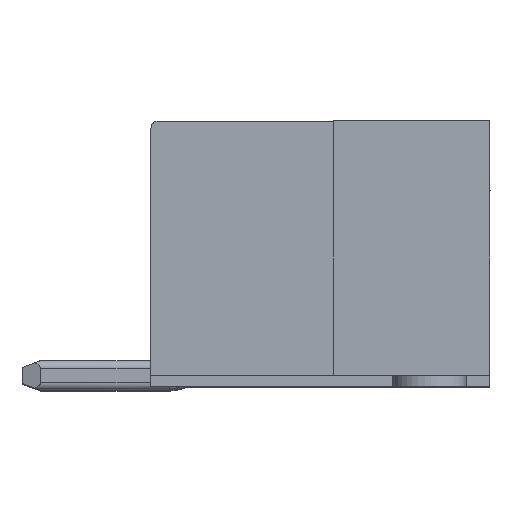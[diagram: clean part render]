
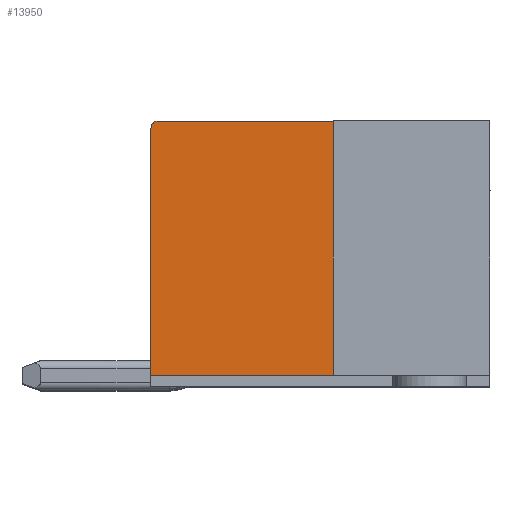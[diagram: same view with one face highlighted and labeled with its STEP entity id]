
A CAD part, top view. The second image highlights one B-rep face of the part: STEP entity #13950.
In plain terms, the highlighted planar face has unit normal (0, 0, 1).
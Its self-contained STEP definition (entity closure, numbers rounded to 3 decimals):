
#81 = ORIENTED_EDGE ( 'NONE', *, *, #4742, .T. ) ;
#147 = EDGE_CURVE ( 'NONE', #14270, #1903, #10104, .T. ) ;
#685 = CARTESIAN_POINT ( 'NONE',  ( -9.2, 7., -3.7 ) ) ;
#1343 = VECTOR ( 'NONE', #20328, 1000. ) ;
#1375 = FACE_OUTER_BOUND ( 'NONE', #5301, .T. ) ;
#1719 = CARTESIAN_POINT ( 'NONE',  ( -4.25, 0.3, -3.7 ) ) ;
#1903 = VERTEX_POINT ( 'NONE', #8935 ) ;
#3107 = EDGE_CURVE ( 'NONE', #20732, #18772, #7627, .T. ) ;
#4599 = CARTESIAN_POINT ( 'NONE',  ( -9.2, 7.2, -3.7 ) ) ;
#4742 = EDGE_CURVE ( 'NONE', #17877, #1903, #14032, .T. ) ;
#4990 = DIRECTION ( 'NONE',  ( 0., 1., 0. ) ) ;
#5301 = EDGE_LOOP ( 'NONE', ( #81, #5918, #7142, #8906, #10097 ) ) ;
#5918 = ORIENTED_EDGE ( 'NONE', *, *, #147, .F. ) ;
#6048 = CARTESIAN_POINT ( 'NONE',  ( -9.2, 0.3, -3.7 ) ) ;
#6327 = CARTESIAN_POINT ( 'NONE',  ( -9.2, 7.056, -3.7 ) ) ;
#6584 = CARTESIAN_POINT ( 'NONE',  ( -9.055, 7.2, -3.7 ) ) ;
#6952 = CARTESIAN_POINT ( 'NONE',  ( -9.2, 0.3, -3.7 ) ) ;
#7142 = ORIENTED_EDGE ( 'NONE', *, *, #16392, .F. ) ;
#7627 = B_SPLINE_CURVE_WITH_KNOTS ( 'NONE', 3,
 ( #11985, #6584, #13583, #17389, #6327, #13902 ),
 .UNSPECIFIED., .F., .F.,
 ( 4, 2, 4 ),
 ( 0., 0.5, 1. ),
 .UNSPECIFIED. ) ;
#8378 = CARTESIAN_POINT ( 'NONE',  ( -9., 7.2, -3.7 ) ) ;
#8906 = ORIENTED_EDGE ( 'NONE', *, *, #3107, .T. ) ;
#8935 = CARTESIAN_POINT ( 'NONE',  ( -4.25, 0.3, -3.7 ) ) ;
#10097 = ORIENTED_EDGE ( 'NONE', *, *, #16589, .T. ) ;
#10104 = LINE ( 'NONE', #1719, #18432 ) ;
#10188 = DIRECTION ( 'NONE',  ( 1., 0., 0. ) ) ;
#10559 = CARTESIAN_POINT ( 'NONE',  ( -9.2, 7.2, -3.7 ) ) ;
#10717 = DIRECTION ( 'NONE',  ( 0., 0., 1. ) ) ;
#11082 = DIRECTION ( 'NONE',  ( 0., -1., 0. ) ) ;
#11959 = LINE ( 'NONE', #23496, #14262 ) ;
#11985 = CARTESIAN_POINT ( 'NONE',  ( -9., 7.2, -3.7 ) ) ;
#13583 = CARTESIAN_POINT ( 'NONE',  ( -9.103, 7.18, -3.7 ) ) ;
#13682 = LINE ( 'NONE', #4599, #20018 ) ;
#13902 = CARTESIAN_POINT ( 'NONE',  ( -9.2, 7., -3.7 ) ) ;
#13950 = ADVANCED_FACE ( 'NONE', ( #1375 ), #14399, .T. ) ;
#14032 = LINE ( 'NONE', #6048, #1343 ) ;
#14262 = VECTOR ( 'NONE', #23646, 1000. ) ;
#14270 = VERTEX_POINT ( 'NONE', #15614 ) ;
#14399 = PLANE ( 'NONE',  #19746 ) ;
#15614 = CARTESIAN_POINT ( 'NONE',  ( -4.25, 7.2, -3.7 ) ) ;
#16392 = EDGE_CURVE ( 'NONE', #20732, #14270, #13682, .T. ) ;
#16589 = EDGE_CURVE ( 'NONE', #18772, #17877, #11959, .T. ) ;
#17389 = CARTESIAN_POINT ( 'NONE',  ( -9.18, 7.103, -3.7 ) ) ;
#17877 = VERTEX_POINT ( 'NONE', #6952 ) ;
#18432 = VECTOR ( 'NONE', #11082, 1000. ) ;
#18772 = VERTEX_POINT ( 'NONE', #685 ) ;
#19746 = AXIS2_PLACEMENT_3D ( 'NONE', #10559, #10717, #4990 ) ;
#20018 = VECTOR ( 'NONE', #10188, 1000. ) ;
#20328 = DIRECTION ( 'NONE',  ( 1., 0., 0. ) ) ;
#20732 = VERTEX_POINT ( 'NONE', #8378 ) ;
#23496 = CARTESIAN_POINT ( 'NONE',  ( -9.2, 7.2, -3.7 ) ) ;
#23646 = DIRECTION ( 'NONE',  ( 0., -1., 0. ) ) ;
